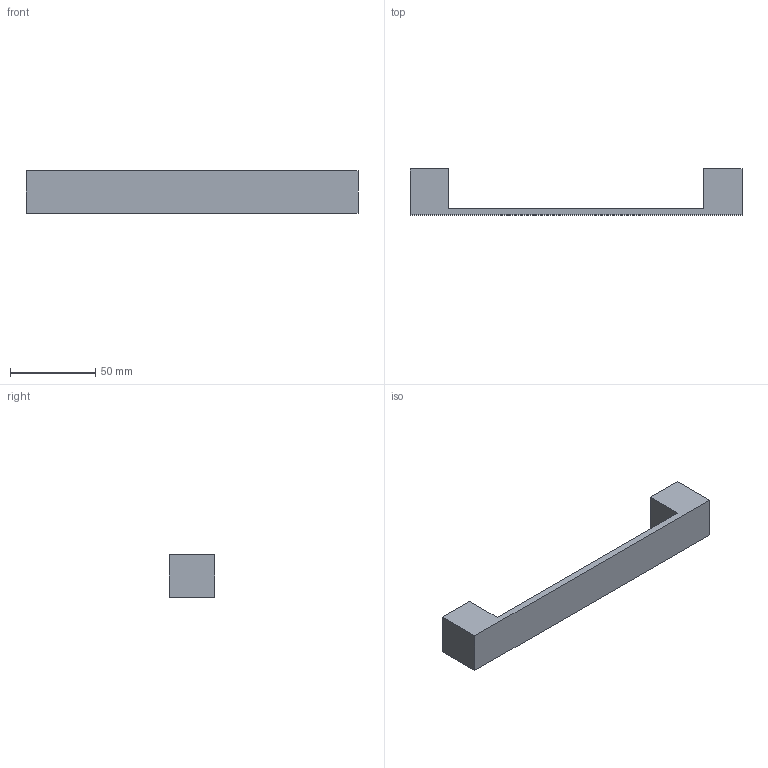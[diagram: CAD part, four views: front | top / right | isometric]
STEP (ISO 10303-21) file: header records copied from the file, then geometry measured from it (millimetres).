
FILE_DESCRIPTION( ( 'STEP AP214' ), '1' );
FILE_NAME( 'D:/Yug/2020/ProDecor_2020/Analysis_ProDecor_2020/QC/9268219.stp', '2020-11-06T06:08:40', ( '' ), ( '' ), ' ', 'PARTsolutions', ' ' );
FILE_SCHEMA( ( 'AUTOMOTIVE_DESIGN { 1 0 10303 214 1 1 1 1 }' ) );
Length unit declared in the file: millimetre
Products named in the file (1): _9268219
Bounding box: 195 x 27 x 25 mm (x, y, z)
Volume: 41044.2 mm3; surface area: 16559.7 mm2
Topology: 1 solids, 1 shells, 19 faces, 45 edges, 30 vertices
Faces by surface type: plane 13, cylinder 6
Full cylindrical faces by diameter (mm): 4 x2
Entity records: 709 total; most frequent: DIRECTION 95, CARTESIAN_POINT 93, ORIENTED_EDGE 86, EDGE_CURVE 43, AXIS2_PLACEMENT_3D 32, LINE 31, VECTOR 31, VERTEX_POINT 30
